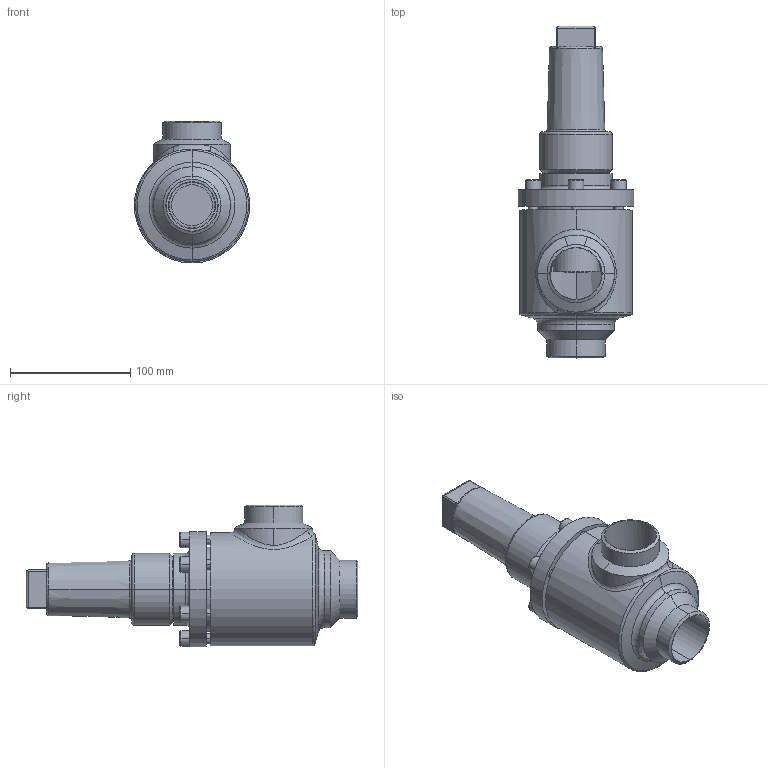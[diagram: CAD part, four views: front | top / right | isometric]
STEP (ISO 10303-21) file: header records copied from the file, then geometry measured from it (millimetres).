
FILE_DESCRIPTION (( 'STEP AP214' ), '1' );
FILE_NAME ('HRAB12400D14-DN040_R1_PS40.STEP', '2006-04-27T12:04:45', ( 'Herr Grams' ), ( 'AWP GmbH' ), 'SwSTEP 2.0', 'SolidWorks 2002296', '' );
FILE_SCHEMA (( 'AUTOMOTIVE_DESIGN' ));
Length unit declared in the file: millimetre
Products named in the file (6): HRAB12400D14-DN040_R1_PS40; Gehäuse16400-DN040_Standard; Kappe16402_DN040-65_Standard; AVB16300E15_Deck+Schr-DN40-50_Standard; Deckel16300E15-DN40-50_Standard; Zylinderschraube-DIN912_M 8x 25
Assembly tree (10 placements, depth 3):
  HRAB12400D14-DN040_R1_PS40
    Gehäuse16400-DN040_Standard
    AVB16300E15_Deck+Schr-DN40-50_Standard
      Zylinderschraube-DIN912_M 8x 25  x6
      Deckel16300E15-DN40-50_Standard
    Kappe16402_DN040-65_Standard
Bounding box: 96 x 276 x 118 mm (x, y, z)
Volume: 724810.6 mm3; surface area: 147645.5 mm2
Topology: 9 solids, 9 shells, 257 faces, 565 edges, 354 vertices
Faces by surface type: cylinder 97, plane 95, cone 35, torus 27, bspline 3
Entity records: 14956 total; most frequent: CARTESIAN_POINT 10523, DIRECTION 881, ORIENTED_EDGE 750, EDGE_CURVE 375, AXIS2_PLACEMENT_3D 375, VERTEX_POINT 234, EDGE_LOOP 201, CIRCLE 197
